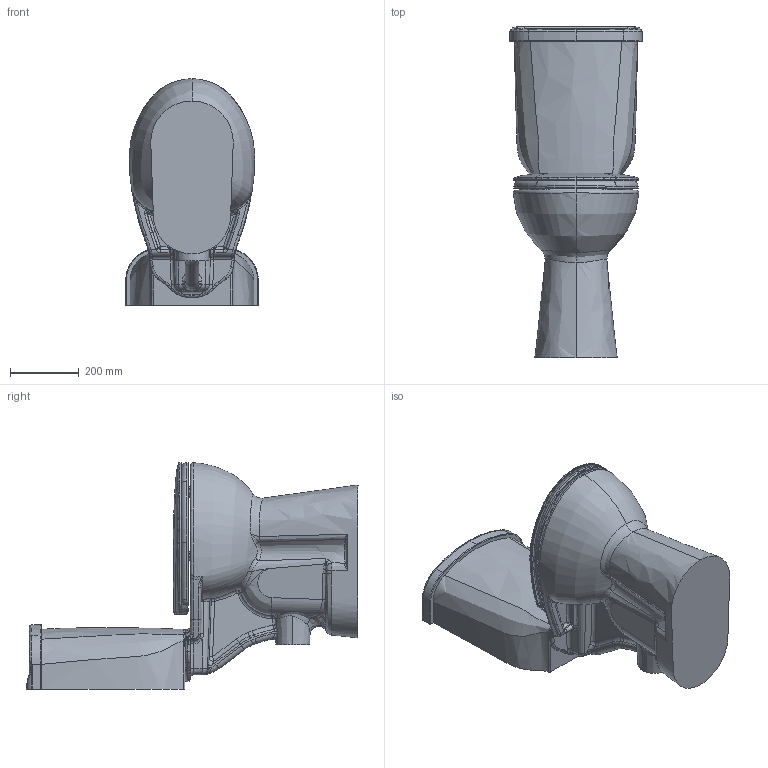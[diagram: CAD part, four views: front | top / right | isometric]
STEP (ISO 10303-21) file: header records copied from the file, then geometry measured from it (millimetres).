
FILE_DESCRIPTION (( 'STEP AP203' ), '1' );
FILE_NAME ('bd310+sd410+KC4020.STEP', '2018-04-09T11:32:57', ( '' ), ( '' ), 'SwSTEP 2.0', 'SolidWorks 2018', '' );
FILE_SCHEMA (( 'CONFIG_CONTROL_DESIGN' ));
Products named in the file (1): bd310+sd410+KC4020
Bounding box: 385.93 x 967 x 660 mm (x, y, z)
Volume: 44258892.7 mm3; surface area: 2562529.3 mm2
Topology: 5 solids, 6 shells, 791 faces, 1908 edges, 1109 vertices
Faces by surface type: bspline 379, cylinder 157, torus 107, plane 106, cone 28, sphere 14
Entity records: 96910 total; most frequent: CARTESIAN_POINT 81373, ORIENTED_EDGE 3760, DIRECTION 2542, EDGE_CURVE 1880, VERTEX_POINT 1109, AXIS2_PLACEMENT_3D 1093, EDGE_LOOP 801, B_SPLINE_CURVE_WITH_KNOTS 797
